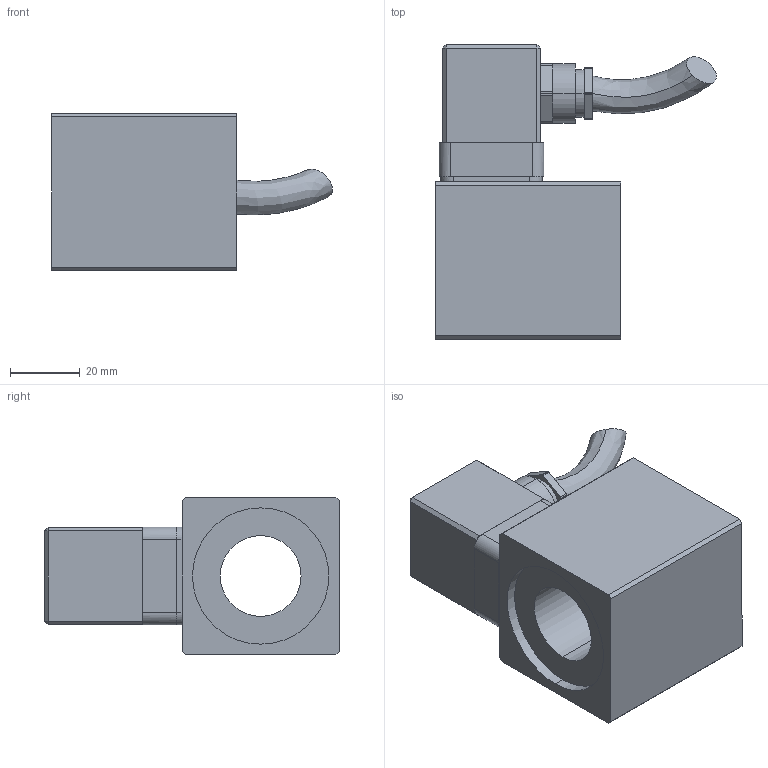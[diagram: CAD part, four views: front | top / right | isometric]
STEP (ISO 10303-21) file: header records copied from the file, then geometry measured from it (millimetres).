
FILE_DESCRIPTION (( 'STEP AP214' ), '1' );
FILE_NAME ('MKS45_23x50-AC.STEP', '2015-07-16T14:01:40', ( '' ), ( '' ), 'SwSTEP 2.0', 'SolidWorks 2014', '' );
FILE_SCHEMA (( 'AUTOMOTIVE_DESIGN' ));
Length unit declared in the file: millimetre
Products named in the file (2): MKS45_23x50-AC
Bounding box: 80.36 x 84.3 x 45 mm (x, y, z)
Volume: 118299 mm3; surface area: 26014.7 mm2
Topology: 2 solids, 14 shells, 318 faces, 779 edges, 499 vertices
Faces by surface type: plane 202, cylinder 94, cone 10, torus 10, bspline 2
Entity records: 12727 total; most frequent: CARTESIAN_POINT 1909, DIRECTION 1642, ORIENTED_EDGE 1550, EDGE_CURVE 775, AXIS2_PLACEMENT_3D 584, VERTEX_POINT 499, VECTOR 474, LINE 474
